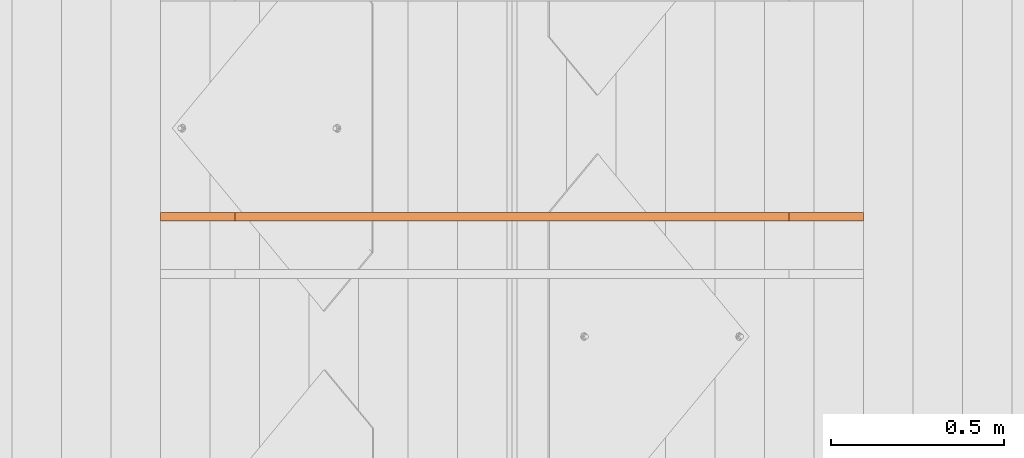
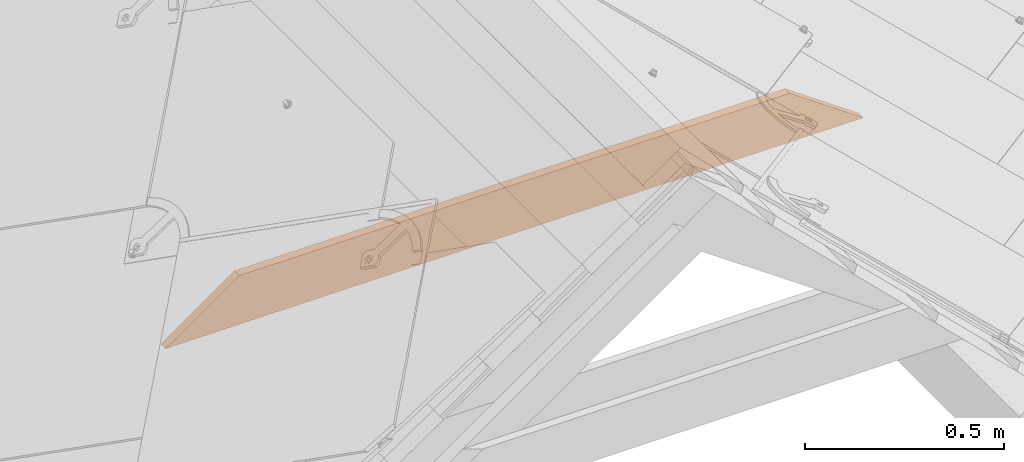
# One storey, part 62 of 151: 1 proxy, 1 element without a shape of its own.
"""IFC2X3 building model written with IfcOpenShell, lengths in millimetres."""

from ifc_helpers import new_model, entity, si_unit, converted_unit, derived_unit, direction, frame, origin, place, context, subcontext, project, spatial, polyline, outline, extrude, source, transform, mapped, material, type_object, type_shapes, element, aggregate, save


model = new_model("IFC2X3")

# Units and contexts
model_context = context("Model", 3, precision=0.01, world=origin(), true_north=direction((6.12303176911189e-17, 1.0)))
body_context = subcontext(model_context, "Body", "Model", "MODEL_VIEW")
ifc_project = project(units=[si_unit("LENGTHUNIT", "METRE", prefix="MILLI"), si_unit("AREAUNIT", "SQUARE_METRE"), si_unit("VOLUMEUNIT", "CUBIC_METRE"), converted_unit("PLANEANGLEUNIT", "DEGREE", entity("IfcRatioMeasure", 0.0174532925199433), si_unit("PLANEANGLEUNIT", "RADIAN"), dimensions=[0, 0, 0, 0, 0, 0, 0]), si_unit("MASSUNIT", "GRAM", prefix="KILO"), derived_unit("MASSDENSITYUNIT", [(si_unit("MASSUNIT", "GRAM", prefix="KILO"), 1), (si_unit("LENGTHUNIT", "METRE"), -3)]), si_unit("TIMEUNIT", "SECOND"), si_unit("FREQUENCYUNIT", "HERTZ"), si_unit("THERMODYNAMICTEMPERATUREUNIT", "DEGREE_CELSIUS"), derived_unit("THERMALTRANSMITTANCEUNIT", [(si_unit("MASSUNIT", "GRAM", prefix="KILO"), 1), (si_unit("THERMODYNAMICTEMPERATUREUNIT", "KELVIN"), -1), (si_unit("TIMEUNIT", "SECOND"), -3)]), derived_unit("VOLUMETRICFLOWRATEUNIT", [(si_unit("LENGTHUNIT", "METRE"), 3), (si_unit("TIMEUNIT", "SECOND"), -1)]), si_unit("ELECTRICCURRENTUNIT", "AMPERE"), si_unit("ELECTRICVOLTAGEUNIT", "VOLT"), si_unit("POWERUNIT", "WATT"), si_unit("FORCEUNIT", "NEWTON", prefix="KILO"), si_unit("ILLUMINANCEUNIT", "LUX"), si_unit("LUMINOUSFLUXUNIT", "LUMEN"), si_unit("LUMINOUSINTENSITYUNIT", "CANDELA"), derived_unit("USERDEFINED", [(si_unit("MASSUNIT", "GRAM", prefix="KILO"), -1), (si_unit("LENGTHUNIT", "METRE"), -2), (si_unit("TIMEUNIT", "SECOND"), 3), (si_unit("LUMINOUSFLUXUNIT", "LUMEN"), 1)]), derived_unit("LINEARVELOCITYUNIT", [(si_unit("LENGTHUNIT", "METRE"), 1), (si_unit("TIMEUNIT", "SECOND"), -1)]), si_unit("PRESSUREUNIT", "PASCAL"), derived_unit("USERDEFINED", [(si_unit("LENGTHUNIT", "METRE"), -2), (si_unit("MASSUNIT", "GRAM", prefix="KILO"), 1), (si_unit("TIMEUNIT", "SECOND"), -2)])], contexts=[model_context])

# Site, building, storey
site_placement = place(None, origin())
site = spatial("IfcSite", under=ifc_project, at=site_placement, Name="Default", CompositionType="ELEMENT")
building_placement = place(site_placement, origin())
building = spatial("IfcBuilding", under=site, at=building_placement, CompositionType="ELEMENT")
storey_placement = place(building_placement, origin())
storey = spatial("IfcBuildingStorey", under=building, at=storey_placement, Name="Level 1", CompositionType="ELEMENT", Elevation=0.0)

# Assembly, proxy
assembly_placement = place(storey_placement, origin())
assembly = element("IfcElementAssembly", 1, at=assembly_placement, inside=storey, Name="Structural Framing Assembly:Roof Construction Assembly", ObjectType="Structural Framing Assembly:Roof Construction Assembly", AssemblyPlace="NOTDEFINED", PredefinedType="USERDEFINED")
ifc_material = material(Name="Wood - Generic - Wood For Showcase")
building_element_proxy_type = type_object("IfcBuildingElementProxyType", Name="Structural Framing 296", PredefinedType="NOTDEFINED", material=ifc_material)
shared_shape = source(origin(), body_context, "Body", "SweptSolid", [
    extrude(outline(polyline([(-1014.04699829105, -75.0), (1014.04699829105, -75.0), (799.824797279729, 75.0), (-799.824797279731, 75.0), (-1014.04699829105, -75.0)])), frame((1206.77890726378, 2325.55080214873, 2164.95664769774), z_axis=(0.0, 1.0, 0.0), x_axis=(-1.0, 0.0, 0.0)), (0.0, 0.0, 1.0), 25.0),
])
type_shapes(building_element_proxy_type, [shared_shape])
proxy_placement = place(assembly_placement, frame((57.4878711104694, -2400.0, 0.0)))
proxy = element("IfcBuildingElementProxy", 2, at=proxy_placement, type_object=building_element_proxy_type, material=ifc_material, Name="Structural Framing 306:Structural Framing 296", ObjectType="Structural Framing 306:Structural Framing 296", context=body_context, shape_type="MappedRepresentation", body=[
    mapped(shared_shape, transform((0.0, 0.0, 0.0), scale=1.0)),
])
aggregate(assembly, [proxy])

save(model, "model.ifc")
